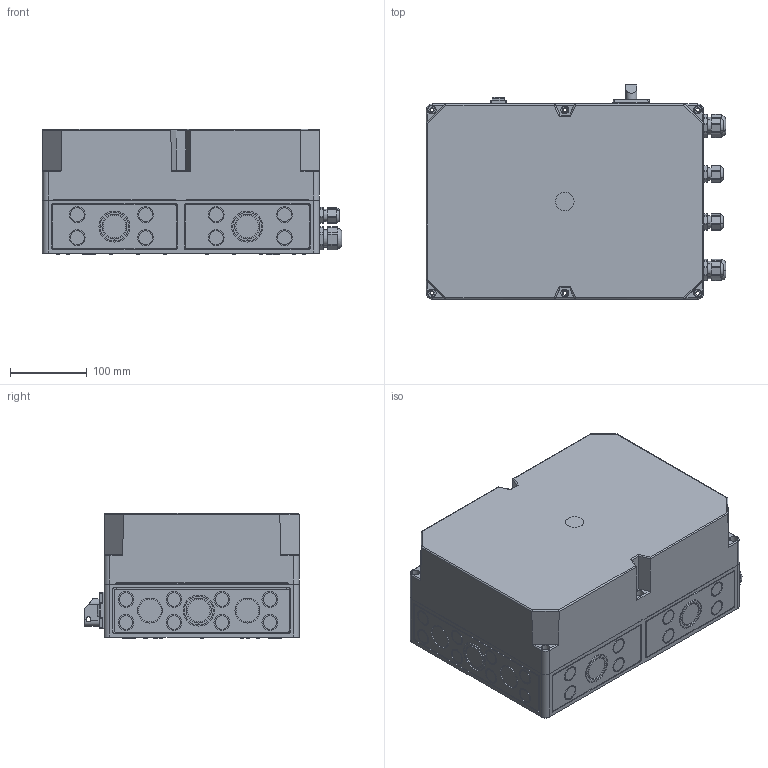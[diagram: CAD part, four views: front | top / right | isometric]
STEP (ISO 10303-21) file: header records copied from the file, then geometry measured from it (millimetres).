
FILE_DESCRIPTION (( 'STEP AP214' ), '1' );
FILE_NAME ('3300V000_Steuerung_twistXXL.STEP', '2018-05-03T09:34:42', ( '' ), ( '' ), 'SwSTEP 2.0', 'SolidWorks 2017', '' );
FILE_SCHEMA (( 'AUTOMOTIVE_DESIGN' ));
Length unit declared in the file: millimetre
Products named in the file (11): 30016_PG20_ohne Mutter 30018; 13611V000_Hauptschalter; 30015_Verschraubung_M16_FG_ohne Mutter 30017; 13616V000_Taster; Sechskantmutter_Taster_13616V000; 13617V000_Montageplatte; 90221_13609V000_Klemmenkasten_Deckel; 13609V000_Klemmenkasten; 41121_Blechschraube_Linsenkopf_mit Zapfen_ISO7049_VZ 4,2 x 9,5; 3300V000_Steuerung_twistXXL; Toothed Lock Washer 1_DIN_DIN 6797-J4.3
Assembly tree (24 placements, depth 2):
  3300V000_Steuerung_twistXXL
    13609V000_Klemmenkasten
    90221_13609V000_Klemmenkasten_Deckel
    13617V000_Montageplatte
    30015_Verschraubung_M16_FG_ohne Mutter 30017  x6
    30016_PG20_ohne Mutter 30018  x2
    13616V000_Taster
    13611V000_Hauptschalter
    41121_Blechschraube_Linsenkopf_mit Zapfen_ISO7049_VZ 4,2 x 9,5  x9
    Sechskantmutter_Taster_13616V000
    Toothed Lock Washer 1_DIN_DIN 6797-J4.3
Bounding box: 390 x 279 x 163 mm (x, y, z)
Volume: 1560805.2 mm3; surface area: 1033707 mm2
Topology: 23 solids, 30 shells, 2380 faces, 5843 edges, 3772 vertices
Faces by surface type: plane 1364, cylinder 916, torus 38, bspline 24, cone 20, sphere 18
Entity records: 58494 total; most frequent: CARTESIAN_POINT 11065, DIRECTION 9671, ORIENTED_EDGE 9130, EDGE_CURVE 4573, AXIS2_PLACEMENT_3D 3564, VERTEX_POINT 3010, LINE 2543, VECTOR 2543
